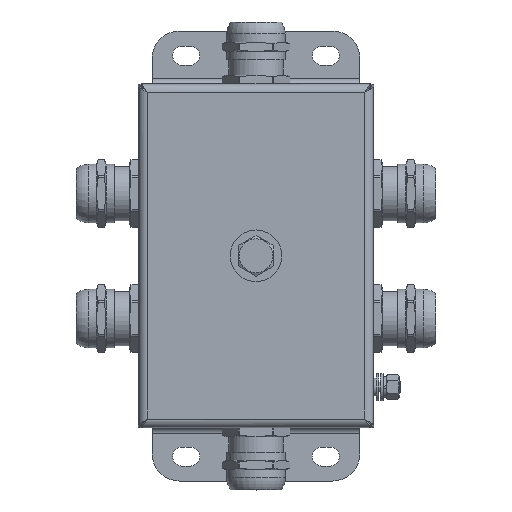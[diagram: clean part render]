
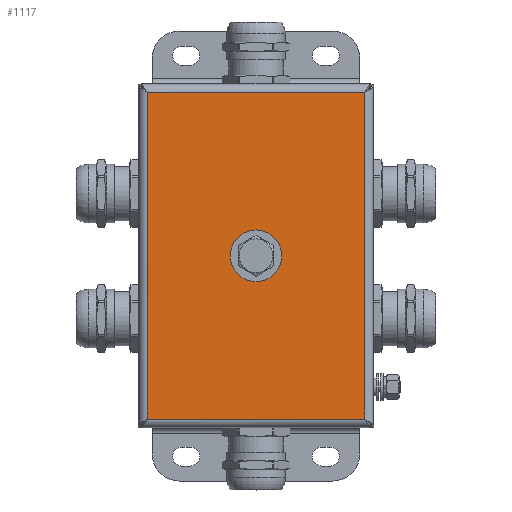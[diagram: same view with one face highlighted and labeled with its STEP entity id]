
A CAD part, top view. The second image highlights one B-rep face of the part: STEP entity #1117.
In plain terms, the highlighted planar face has unit normal (0, 0, 1).
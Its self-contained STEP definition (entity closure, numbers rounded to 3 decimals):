
#1117=ADVANCED_FACE('',(#8026,#8028),#8030,.T.);
#8026=FACE_BOUND('',#8027,.T.);
#8027=EDGE_LOOP('',(#11670,#11671,#11672,#11673));
#8028=FACE_BOUND('',#8029,.T.);
#8029=EDGE_LOOP('',(#11674));
#8030=PLANE('',#8031);
#8031=AXIS2_PLACEMENT_3D('',#8032,#8033,#8034);
#8032=CARTESIAN_POINT('',(0.,0.,61.7));
#8033=DIRECTION('',(0.,-0.,1.));
#8034=DIRECTION('',(0.,1.,0.));
#11670=ORIENTED_EDGE('',*,*,#14267,.T.);
#11671=ORIENTED_EDGE('',*,*,#14268,.T.);
#11672=ORIENTED_EDGE('',*,*,#14269,.T.);
#11673=ORIENTED_EDGE('',*,*,#14270,.T.);
#11674=ORIENTED_EDGE('',*,*,#13254,.T.);
#13254=EDGE_CURVE('',#18110,#18110,#18111,.F.);
#14267=EDGE_CURVE('',#18620,#18621,#18622,.T.);
#14268=EDGE_CURVE('',#18621,#18623,#18624,.T.);
#14269=EDGE_CURVE('',#18623,#18625,#18626,.T.);
#14270=EDGE_CURVE('',#18625,#18620,#18627,.T.);
#18110=VERTEX_POINT('',#19807);
#18111=CIRCLE('',#19808,8.5);
#18620=VERTEX_POINT('',#20987);
#18621=VERTEX_POINT('',#20988);
#18622=LINE('',#20989,#20990);
#18623=VERTEX_POINT('',#20992);
#18624=LINE('',#20993,#20994);
#18625=VERTEX_POINT('',#20996);
#18626=LINE('',#20997,#20998);
#18627=LINE('',#21000,#21001);
#19807=CARTESIAN_POINT('',(-8.5,0.,61.7));
#19808=AXIS2_PLACEMENT_3D('',#19809,#19810,#19811);
#19809=CARTESIAN_POINT('',(0.,0.,61.7));
#19810=DIRECTION('',(0.,-0.,1.));
#19811=DIRECTION('',(-1.,0.,0.));
#20987=CARTESIAN_POINT('',(40.05,60.05,61.7));
#20988=CARTESIAN_POINT('',(-40.05,60.05,61.7));
#20989=CARTESIAN_POINT('',(40.05,60.05,61.7));
#20990=VECTOR('',#20991,1.);
#20991=DIRECTION('',(-1.,0.,0.));
#20992=CARTESIAN_POINT('',(-40.05,-60.05,61.7));
#20993=CARTESIAN_POINT('',(-40.05,60.05,61.7));
#20994=VECTOR('',#20995,1.);
#20995=DIRECTION('',(0.,-1.,0.));
#20996=CARTESIAN_POINT('',(40.05,-60.05,61.7));
#20997=CARTESIAN_POINT('',(-40.05,-60.05,61.7));
#20998=VECTOR('',#20999,1.);
#20999=DIRECTION('',(1.,0.,0.));
#21000=CARTESIAN_POINT('',(40.05,-60.05,61.7));
#21001=VECTOR('',#21002,1.);
#21002=DIRECTION('',(0.,1.,0.));
